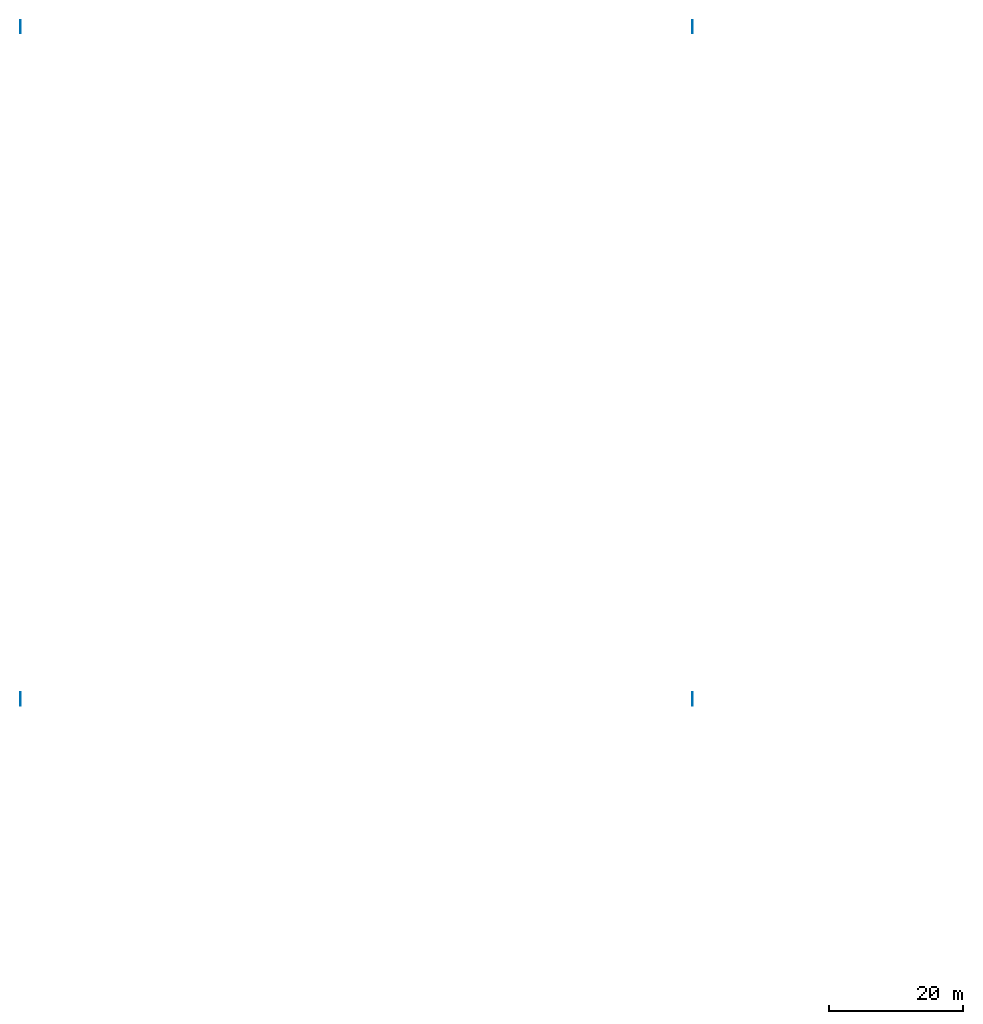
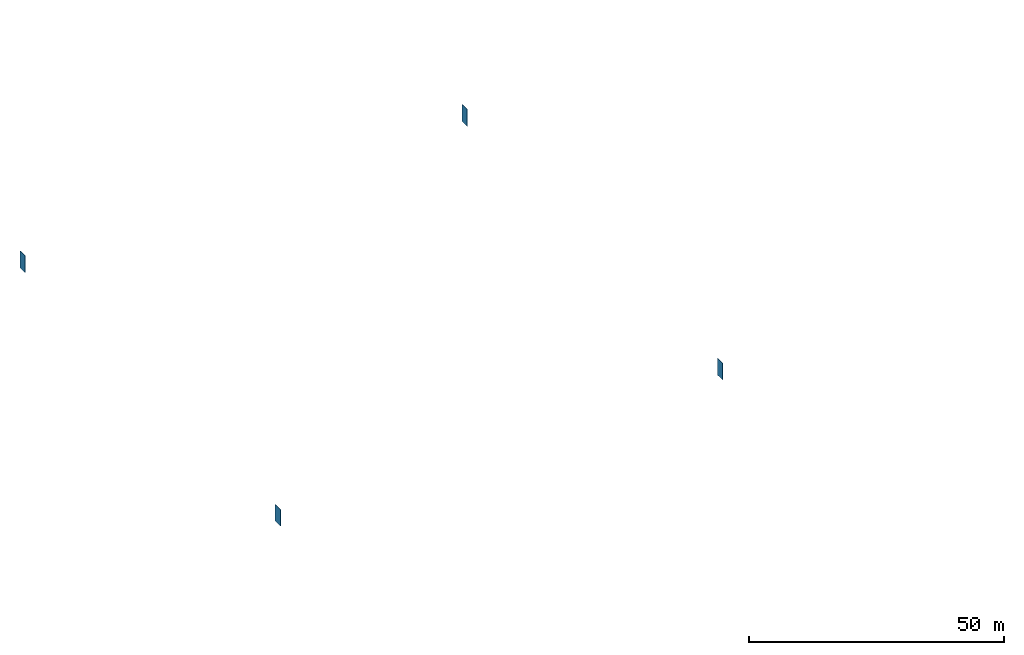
# One storey, part 125 of 164: 4 walls.
"""IFC2X3 building model written with IfcOpenShell, lengths in millimetres."""

import ifcopenshell
import ifcopenshell.guid

model = None  # the IFC model being written
_history = None  # IfcOwnerHistory: only IFC2X3 demands one
_inside = {}  # id of a spatial element -> (the spatial element, [elements in it])
_under = {}  # id of a project, library or spatial element -> (it, [spatial elements below it])
_declared = {}  # id of a project -> (the project, [libraries it declares])
_typed = {}  # id of a type object -> (the type object, [elements of that type])
_made_of = {}  # id of a material, layer set ... -> (it, [elements and type objects made of it])


def new_model(schema):
    """Start an empty IFC model of exactly this schema.

    Asked for "IFC4X3", IfcOpenShell would pick the latest addendum, in which some entities
    have other attributes; the version numbers below select the first issue.
    IFC2X3 requires an IfcOwnerHistory on every rooted entity: one is made here for all.
    """
    global model, _history
    if schema == "IFC4X3":
        model = ifcopenshell.file(schema_version=(4, 3, 0, 0))
    else:
        model = ifcopenshell.file(schema=schema)
    _inside.clear()
    _under.clear()
    _declared.clear()
    _typed.clear()
    _made_of.clear()
    _history = None
    if model.schema == "IFC2X3":
        org = make("IfcOrganization", Name="unknown")
        user = make(
            "IfcPersonAndOrganization",
            ThePerson=make("IfcPerson", FamilyName="unknown"),
            TheOrganization=org,
        )
        app = make(
            "IfcApplication",
            ApplicationDeveloper=org,
            Version="unknown",
            ApplicationFullName="unknown",
            ApplicationIdentifier="unknown",
        )
        _history = make(
            "IfcOwnerHistory",
            OwningUser=user,
            OwningApplication=app,
            ChangeAction="ADDED",
            CreationDate=0,
        )
    return model


def make(cls, **values):
    """One entity of the class cls with the attributes given. An attribute that is None is left unset."""
    return model.create_entity(
        cls, **{name: value for name, value in values.items() if value is not None}
    )


def entity(cls, *values):
    """Any entity or typed value of the class cls, its attributes in the order of the schema. None: left unset."""
    e = model.create_entity(cls)
    for i, value in enumerate(values):
        if value is not None:
            e[i] = value
    return e


def rooted(cls, **values):
    """An entity with a GlobalId (a new one), such as an element, a storey or a relation."""
    return make(cls, GlobalId=ifcopenshell.guid.new(), OwnerHistory=_history, **values)


def si_unit(unit_type, name, prefix=None):
    """IfcSIUnit, for example si_unit("LENGTHUNIT", "METRE", prefix="MILLI")."""
    return make("IfcSIUnit", UnitType=unit_type, Prefix=prefix, Name=name)


def converted_unit(unit_type, name, factor, base, dimensions=None, offset=None):
    """IfcConversionBasedUnit, such as the inch: factor (a typed value) times the base unit."""
    return make(
        "IfcConversionBasedUnit"
        if offset is None
        else "IfcConversionBasedUnitWithOffset",
        ConversionOffset=offset,
        Dimensions=None
        if dimensions is None
        else entity("IfcDimensionalExponents", *dimensions),
        UnitType=unit_type,
        Name=name,
        ConversionFactor=make(
            "IfcMeasureWithUnit", ValueComponent=factor, UnitComponent=base
        ),
    )


def derived_unit(unit_type, elements):
    """IfcDerivedUnit: a product of units, each with its exponent."""
    return make(
        "IfcDerivedUnit",
        Elements=[
            make("IfcDerivedUnitElement", Unit=unit, Exponent=power)
            for unit, power in elements
        ],
        UnitType=unit_type,
    )


def assignment(units):
    """IfcUnitAssignment: the units of a project."""
    return None if units is None else make("IfcUnitAssignment", Units=units)


def point(xyz):
    """IfcCartesianPoint."""
    return None if xyz is None else make("IfcCartesianPoint", Coordinates=xyz)


def direction(xyz):
    """IfcDirection."""
    return None if xyz is None else make("IfcDirection", DirectionRatios=xyz)


def frame(location, z_axis=None, x_axis=None):
    """IfcAxis2Placement3D, a coordinate frame: its origin and axes. An axis left out is left unset."""
    return make(
        "IfcAxis2Placement3D",
        Location=point(location),
        Axis=direction(z_axis),
        RefDirection=direction(x_axis),
    )


def frame_2d(location, x_axis=None):
    """IfcAxis2Placement2D, a coordinate frame in the plane: its origin and x axis."""
    return make(
        "IfcAxis2Placement2D", Location=point(location), RefDirection=direction(x_axis)
    )


def origin():
    """The frame at (0, 0, 0) with its axes left unset."""
    return frame((0.0, 0.0, 0.0))


def place(relative_to, where):
    """IfcLocalPlacement: puts the frame where relative to a parent placement (None: the world)."""
    return make(
        "IfcLocalPlacement", PlacementRelTo=relative_to, RelativePlacement=where
    )


def context(
    kind, dimensions, precision=None, world=None, true_north=None, identifier=None
):
    """IfcGeometricRepresentationContext, for example the 3D "Model" context."""
    return make(
        "IfcGeometricRepresentationContext",
        ContextIdentifier=identifier,
        ContextType=kind,
        CoordinateSpaceDimension=dimensions,
        Precision=precision,
        WorldCoordinateSystem=world,
        TrueNorth=true_north,
    )


def subcontext(parent, identifier, kind, view, scale=None):
    """IfcGeometricRepresentationSubContext, for example "Body" below "Model"."""
    return make(
        "IfcGeometricRepresentationSubContext",
        ContextIdentifier=identifier,
        ContextType=kind,
        ParentContext=parent,
        TargetScale=scale,
        TargetView=view,
    )


def project(units=None, contexts=None):
    """IfcProject with its units and contexts."""
    return rooted(
        "IfcProject",
        Name="project",
        RepresentationContexts=contexts,
        UnitsInContext=assignment(units),
    )


def spatial(cls, under=None, at=None, **own):
    """A site, building, storey or space (cls), placed at a placement, below another one or the project."""
    s = rooted(cls, ObjectPlacement=at, **own)
    if under is not None:
        _under.setdefault(under.id(), (under, []))[1].append(s)
    return s


def profile(cls, at=None, kind="AREA", **sizes):
    """A parametric profile (cls). Its sizes go by their IFC names, for example OverallWidth=200.0."""
    return make(cls, ProfileType=kind, Position=at, **sizes)


def rectangle(**sizes):
    """IfcRectangleProfileDef."""
    return profile("IfcRectangleProfileDef", **sizes)


def extrude(swept, where, along, depth):
    """IfcExtrudedAreaSolid: the profile swept, set in the frame where, extruded along a direction by depth."""
    return make(
        "IfcExtrudedAreaSolid",
        SweptArea=swept,
        Position=where,
        ExtrudedDirection=direction(along),
        Depth=depth,
    )


def shape(context_of_items, identifier, shape_type, items):
    """IfcShapeRepresentation: the items that make up one representation, for example the "Body"."""
    return make(
        "IfcShapeRepresentation",
        ContextOfItems=context_of_items,
        RepresentationIdentifier=identifier,
        RepresentationType=shape_type,
        Items=items,
    )


def material(Name=None, Category=None):
    """IfcMaterial."""
    return make("IfcMaterial", Name=Name, Category=Category)


def layer(
    of_material, thickness, ventilated=None, Name=None, Category=None, Priority=None
):
    """IfcMaterialLayer: one layer of a wall or slab, of a material (None: an air gap)."""
    return make(
        "IfcMaterialLayer",
        Material=of_material,
        LayerThickness=thickness,
        IsVentilated=ventilated,
        Name=Name,
        Category=Category,
        Priority=Priority,
    )


def layer_set(layers, Name=None):
    """IfcMaterialLayerSet."""
    return make("IfcMaterialLayerSet", MaterialLayers=layers, LayerSetName=Name)


def layer_usage(for_layer_set, set_direction, sense, offset, extent=None):
    """IfcMaterialLayerSetUsage: how a layer set lies in its element."""
    return make(
        "IfcMaterialLayerSetUsage",
        ForLayerSet=for_layer_set,
        LayerSetDirection=set_direction,
        DirectionSense=sense,
        OffsetFromReferenceLine=offset,
        ReferenceExtent=extent,
    )


def made_of(thing, what):
    """Note that an element or type object is made of a material, layer set ...; save() writes the relation."""
    if what is not None:
        _made_of.setdefault(what.id(), (what, []))[1].append(thing)
    return thing


def type_object(cls, material=None, **own):
    """A type object (cls), such as IfcWallType, which elements share."""
    return made_of(rooted(cls, **own), material)


def element(
    cls,
    number,
    at=None,
    inside=None,
    cuts=None,
    type_object=None,
    material=None,
    context=None,
    identifier="Body",
    shape_type=None,
    held_by="IfcProductDefinitionShape",
    body=None,
    shapes=None,
    **own,
):
    """One element of the class cls, such as IfcWall. Its Tag is "e" and its number.

    at: its placement. inside: the storey or other place that contains it. cuts: it is an
    opening in that element (IfcRelVoidsElement). A single representation is given by context,
    identifier, shape_type and body (its items); several are given by shapes. held_by: the class
    of the entity that holds the representations. save() writes the other relations.
    """
    e = rooted(cls, Tag="e%d" % number, ObjectPlacement=at, **own)
    if body is not None:
        shapes = [shape(context, identifier, shape_type, body)]
    if shapes is not None:
        e.Representation = make(held_by, Representations=shapes)
    if inside is not None:
        _inside.setdefault(inside.id(), (inside, []))[1].append(e)
    if cuts is not None:
        rooted(
            "IfcRelVoidsElement", RelatingBuildingElement=cuts, RelatedOpeningElement=e
        )
    if type_object is not None:
        _typed.setdefault(type_object.id(), (type_object, []))[1].append(e)
    return made_of(e, material)


def aggregate(whole, parts):
    """IfcRelAggregates: a whole, such as a stair, and the parts it consists of."""
    return rooted("IfcRelAggregates", RelatingObject=whole, RelatedObjects=parts)


def save(model, path):
    """Write the relations noted so far, then the file.

    IfcRelAggregates (storeys below a building ...), IfcRelContainedInSpatialStructure (elements
    in a storey), IfcRelDefinesByType, IfcRelAssociatesMaterial and IfcRelDeclares: one each for
    every whole, place, type object, material and project.
    """
    for whole, parts in _under.values():
        aggregate(whole, parts)
    for where, things in _inside.values():
        rooted(
            "IfcRelContainedInSpatialStructure",
            RelatedElements=things,
            RelatingStructure=where,
        )
    for kind, things in _typed.values():
        rooted("IfcRelDefinesByType", RelatedObjects=things, RelatingType=kind)
    for what, things in _made_of.values():
        rooted("IfcRelAssociatesMaterial", RelatedObjects=things, RelatingMaterial=what)
    for by, libraries in _declared.values():
        rooted("IfcRelDeclares", RelatingContext=by, RelatedDefinitions=libraries)
    model.write(path)


model = new_model("IFC2X3")

# Units and contexts
model_context = context("Model", 3, precision=0.01, world=origin(), true_north=direction((6.12303176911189e-17, 1.0)))
body_context = subcontext(model_context, "Body", "Model", "MODEL_VIEW")
ifc_project = project(units=[si_unit("LENGTHUNIT", "METRE", prefix="MILLI"), si_unit("AREAUNIT", "SQUARE_METRE"), si_unit("VOLUMEUNIT", "CUBIC_METRE"), converted_unit("PLANEANGLEUNIT", "DEGREE", entity("IfcRatioMeasure", 0.0174532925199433), si_unit("PLANEANGLEUNIT", "RADIAN"), dimensions=[0, 0, 0, 0, 0, 0, 0]), si_unit("MASSUNIT", "GRAM", prefix="KILO"), derived_unit("MASSDENSITYUNIT", [(si_unit("MASSUNIT", "GRAM", prefix="KILO"), 1), (si_unit("LENGTHUNIT", "METRE"), -3)]), derived_unit("MOMENTOFINERTIAUNIT", [(si_unit("LENGTHUNIT", "METRE"), 4)]), si_unit("TIMEUNIT", "SECOND"), si_unit("FREQUENCYUNIT", "HERTZ"), si_unit("THERMODYNAMICTEMPERATUREUNIT", "DEGREE_CELSIUS"), derived_unit("THERMALTRANSMITTANCEUNIT", [(si_unit("MASSUNIT", "GRAM", prefix="KILO"), 1), (si_unit("THERMODYNAMICTEMPERATUREUNIT", "KELVIN"), -1), (si_unit("TIMEUNIT", "SECOND"), -3)]), derived_unit("VOLUMETRICFLOWRATEUNIT", [(si_unit("LENGTHUNIT", "METRE"), 3), (si_unit("TIMEUNIT", "SECOND"), -1)]), si_unit("ELECTRICCURRENTUNIT", "AMPERE"), si_unit("ELECTRICVOLTAGEUNIT", "VOLT"), si_unit("POWERUNIT", "WATT"), si_unit("FORCEUNIT", "NEWTON", prefix="KILO"), si_unit("ILLUMINANCEUNIT", "LUX"), si_unit("LUMINOUSFLUXUNIT", "LUMEN"), si_unit("LUMINOUSINTENSITYUNIT", "CANDELA"), derived_unit("USERDEFINED", [(si_unit("MASSUNIT", "GRAM", prefix="KILO"), -1), (si_unit("LENGTHUNIT", "METRE"), -2), (si_unit("TIMEUNIT", "SECOND"), 3), (si_unit("LUMINOUSFLUXUNIT", "LUMEN"), 1)]), derived_unit("LINEARVELOCITYUNIT", [(si_unit("LENGTHUNIT", "METRE"), 1), (si_unit("TIMEUNIT", "SECOND"), -1)]), si_unit("PRESSUREUNIT", "PASCAL"), derived_unit("USERDEFINED", [(si_unit("LENGTHUNIT", "METRE"), -2), (si_unit("MASSUNIT", "GRAM", prefix="KILO"), 1), (si_unit("TIMEUNIT", "SECOND"), -2)]), derived_unit("LINEARFORCEUNIT", [(si_unit("MASSUNIT", "GRAM", prefix="KILO"), 1), (si_unit("LENGTHUNIT", "METRE"), 1), (si_unit("TIMEUNIT", "SECOND"), -2), (si_unit("LENGTHUNIT", "METRE"), -1)]), derived_unit("PLANARFORCEUNIT", [(si_unit("MASSUNIT", "GRAM", prefix="KILO"), 1), (si_unit("LENGTHUNIT", "METRE"), 1), (si_unit("TIMEUNIT", "SECOND"), -2), (si_unit("LENGTHUNIT", "METRE"), -2)])], contexts=[model_context])

# Site, building, storey
site_placement = place(None, origin())
site = spatial("IfcSite", under=ifc_project, at=site_placement, Name="Default", CompositionType="ELEMENT")
building_placement = place(site_placement, origin())
building = spatial("IfcBuilding", under=site, at=building_placement, CompositionType="ELEMENT")
storey_placement = place(building_placement, origin())
storey = spatial("IfcBuildingStorey", under=building, at=storey_placement, Name="Level 1", CompositionType="ELEMENT", Elevation=0.0)

# Walls
ifc_material = material(Name="Default Wall")
ifc_layer = layer(ifc_material, 100.0)
ifc_layer_set = layer_set([ifc_layer], Name="Basic Wall:Generic - 100mm")
ifc_layer_usage_1 = layer_usage(ifc_layer_set, "AXIS2", "NEGATIVE", 50.0)
wall_type = type_object("IfcWallType", Name="Basic Wall:Generic - 100mm", PredefinedType="STANDARD", material=ifc_layer_set)
wall_1_placement = place(storey_placement, frame((50.0, 1801000.0, 0.0), z_axis=(0.0, 0.0, 1.0), x_axis=(0.0, -1.0, 0.0)))
element("IfcWallStandardCase", 1, at=wall_1_placement, inside=storey, type_object=wall_type, material=ifc_layer_usage_1, Name="Basic Wall:Generic - 100mm", ObjectType="Basic Wall:Generic - 100mm", context=body_context, shape_type="SweptSolid", body=[
    extrude(rectangle(XDim=1999.99999999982, YDim=100.0, at=frame_2d((999.999999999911, 0.0), x_axis=(-1.0, 0.0))), origin(), (0.0, 0.0, 1.0), 4000.0),
])
ifc_layer_usage_2 = layer_usage(ifc_layer_set, "AXIS2", "NEGATIVE", 50.0)
wall_2_placement = place(storey_placement, frame((100050.0, 1801000.0, 0.0), z_axis=(0.0, 0.0, 1.0), x_axis=(0.0, -1.0, 0.0)))
element("IfcWallStandardCase", 2, at=wall_2_placement, inside=storey, type_object=wall_type, material=ifc_layer_usage_2, Name="Basic Wall:Generic - 100mm", ObjectType="Basic Wall:Generic - 100mm", context=body_context, shape_type="SweptSolid", body=[
    extrude(rectangle(XDim=1999.99999999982, YDim=100.000000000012, at=frame_2d((999.999999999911, 1.60582658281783e-12), x_axis=(-1.0, 0.0))), origin(), (0.0, 0.0, 1.0), 4000.0),
])
ifc_layer_usage_3 = layer_usage(ifc_layer_set, "AXIS2", "NEGATIVE", 50.0)
wall_3_placement = place(storey_placement, frame((50.0, 1901000.0, 0.0), z_axis=(0.0, 0.0, 1.0), x_axis=(0.0, -1.0, 0.0)))
element("IfcWallStandardCase", 3, at=wall_3_placement, inside=storey, type_object=wall_type, material=ifc_layer_usage_3, Name="Basic Wall:Generic - 100mm", ObjectType="Basic Wall:Generic - 100mm", context=body_context, shape_type="SweptSolid", body=[
    extrude(rectangle(XDim=1999.99999999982, YDim=100.0, at=frame_2d((999.999999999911, 0.0), x_axis=(-1.0, 0.0))), origin(), (0.0, 0.0, 1.0), 4000.0),
])
ifc_layer_usage_4 = layer_usage(ifc_layer_set, "AXIS2", "NEGATIVE", 50.0)
wall_4_placement = place(storey_placement, frame((100050.0, 1901000.0, 0.0), z_axis=(0.0, 0.0, 1.0), x_axis=(0.0, -1.0, 0.0)))
element("IfcWallStandardCase", 4, at=wall_4_placement, inside=storey, type_object=wall_type, material=ifc_layer_usage_4, Name="Basic Wall:Generic - 100mm", ObjectType="Basic Wall:Generic - 100mm", context=body_context, shape_type="SweptSolid", body=[
    extrude(rectangle(XDim=1999.99999999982, YDim=100.000000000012, at=frame_2d((999.999999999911, 1.60582658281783e-12), x_axis=(-1.0, 0.0))), origin(), (0.0, 0.0, 1.0), 4000.0),
])

save(model, "model.ifc")
